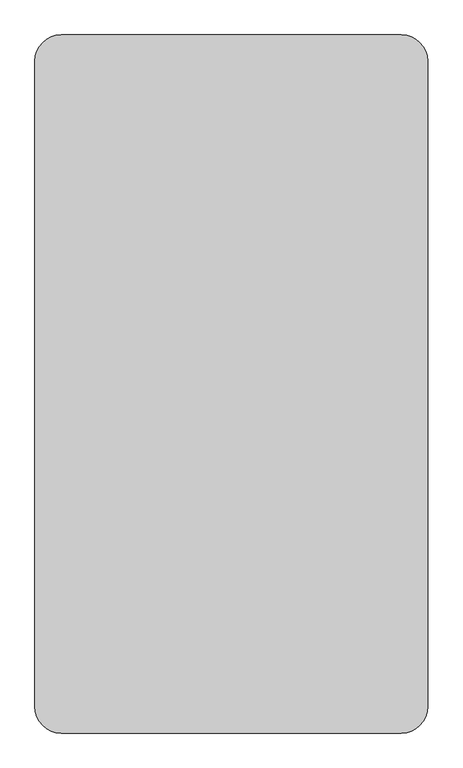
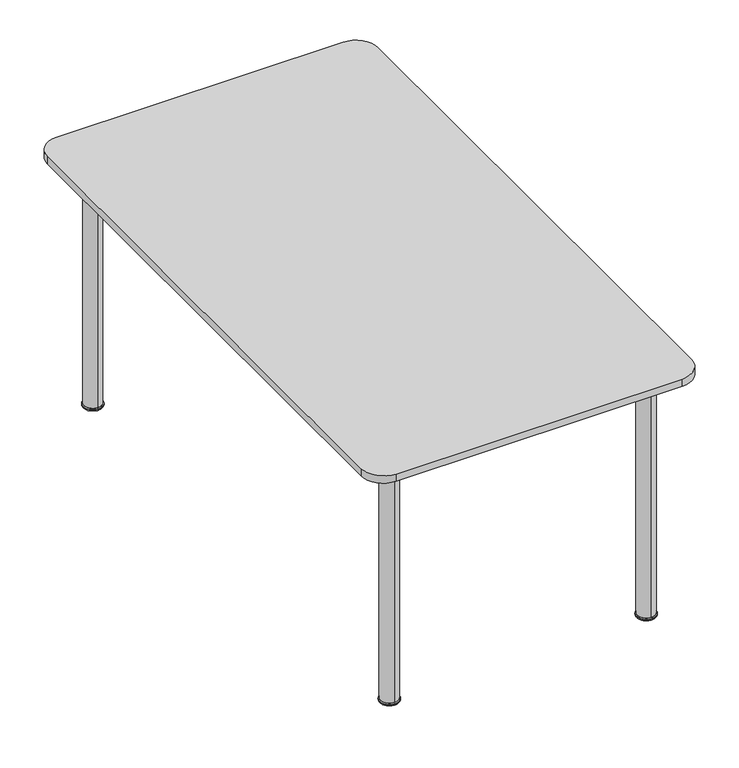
"""IFC4 building model written with IfcOpenShell, lengths in millimetres: furniture geometry, Fredericia - Plan Table - 6630 : Fredericia - Plan Table - 6630."""

import ifcopenshell
import ifcopenshell.guid

model = None  # the IFC model being written
_history = None  # IfcOwnerHistory: only IFC2X3 demands one
_inside = {}  # id of a spatial element -> (the spatial element, [elements in it])
_under = {}  # id of a project, library or spatial element -> (it, [spatial elements below it])
_declared = {}  # id of a project -> (the project, [libraries it declares])
_typed = {}  # id of a type object -> (the type object, [elements of that type])
_made_of = {}  # id of a material, layer set ... -> (it, [elements and type objects made of it])


def new_model(schema):
    """Start an empty IFC model of exactly this schema.

    Asked for "IFC4X3", IfcOpenShell would pick the latest addendum, in which some entities
    have other attributes; the version numbers below select the first issue.
    IFC2X3 requires an IfcOwnerHistory on every rooted entity: one is made here for all.
    """
    global model, _history
    if schema == "IFC4X3":
        model = ifcopenshell.file(schema_version=(4, 3, 0, 0))
    else:
        model = ifcopenshell.file(schema=schema)
    _inside.clear()
    _under.clear()
    _declared.clear()
    _typed.clear()
    _made_of.clear()
    _history = None
    if model.schema == "IFC2X3":
        org = make("IfcOrganization", Name="unknown")
        user = make(
            "IfcPersonAndOrganization",
            ThePerson=make("IfcPerson", FamilyName="unknown"),
            TheOrganization=org,
        )
        app = make(
            "IfcApplication",
            ApplicationDeveloper=org,
            Version="unknown",
            ApplicationFullName="unknown",
            ApplicationIdentifier="unknown",
        )
        _history = make(
            "IfcOwnerHistory",
            OwningUser=user,
            OwningApplication=app,
            ChangeAction="ADDED",
            CreationDate=0,
        )
    return model


def make(cls, **values):
    """One entity of the class cls with the attributes given. An attribute that is None is left unset."""
    return model.create_entity(
        cls, **{name: value for name, value in values.items() if value is not None}
    )


def rooted(cls, **values):
    """An entity with a GlobalId (a new one), such as an element, a storey or a relation."""
    return make(cls, GlobalId=ifcopenshell.guid.new(), OwnerHistory=_history, **values)


def si_unit(unit_type, name, prefix=None):
    """IfcSIUnit, for example si_unit("LENGTHUNIT", "METRE", prefix="MILLI")."""
    return make("IfcSIUnit", UnitType=unit_type, Prefix=prefix, Name=name)


def assignment(units):
    """IfcUnitAssignment: the units of a project."""
    return None if units is None else make("IfcUnitAssignment", Units=units)


def point(xyz):
    """IfcCartesianPoint."""
    return None if xyz is None else make("IfcCartesianPoint", Coordinates=xyz)


def direction(xyz):
    """IfcDirection."""
    return None if xyz is None else make("IfcDirection", DirectionRatios=xyz)


def frame(location, z_axis=None, x_axis=None):
    """IfcAxis2Placement3D, a coordinate frame: its origin and axes. An axis left out is left unset."""
    return make(
        "IfcAxis2Placement3D",
        Location=point(location),
        Axis=direction(z_axis),
        RefDirection=direction(x_axis),
    )


def frame_2d(location, x_axis=None):
    """IfcAxis2Placement2D, a coordinate frame in the plane: its origin and x axis."""
    return make(
        "IfcAxis2Placement2D", Location=point(location), RefDirection=direction(x_axis)
    )


def origin():
    """The frame at (0, 0, 0) with its axes left unset."""
    return frame((0.0, 0.0, 0.0))


def place(relative_to, where):
    """IfcLocalPlacement: puts the frame where relative to a parent placement (None: the world)."""
    return make(
        "IfcLocalPlacement", PlacementRelTo=relative_to, RelativePlacement=where
    )


def context(
    kind, dimensions, precision=None, world=None, true_north=None, identifier=None
):
    """IfcGeometricRepresentationContext, for example the 3D "Model" context."""
    return make(
        "IfcGeometricRepresentationContext",
        ContextIdentifier=identifier,
        ContextType=kind,
        CoordinateSpaceDimension=dimensions,
        Precision=precision,
        WorldCoordinateSystem=world,
        TrueNorth=true_north,
    )


def project(units=None, contexts=None):
    """IfcProject with its units and contexts."""
    return rooted(
        "IfcProject",
        Name="project",
        RepresentationContexts=contexts,
        UnitsInContext=assignment(units),
    )


def spatial(cls, under=None, at=None, **own):
    """A site, building, storey or space (cls), placed at a placement, below another one or the project."""
    s = rooted(cls, ObjectPlacement=at, **own)
    if under is not None:
        _under.setdefault(under.id(), (under, []))[1].append(s)
    return s


def polyline(points):
    """IfcPolyline through the points."""
    return make("IfcPolyline", Points=[point(p) for p in points])


def circle_curve(where, radius):
    """IfcCircle in the frame where."""
    return make("IfcCircle", Position=where, Radius=radius)


def ellipse_curve(where, semi_axis1, semi_axis2):
    """IfcEllipse in the frame where."""
    return make(
        "IfcEllipse", Position=where, SemiAxis1=semi_axis1, SemiAxis2=semi_axis2
    )


def trimmed(basis, trim1, trim2, sense, master):
    """IfcTrimmedCurve: the piece of a basis curve between two trims."""
    return make(
        "IfcTrimmedCurve",
        BasisCurve=basis,
        Trim1=trim1,
        Trim2=trim2,
        SenseAgreement=sense,
        MasterRepresentation=master,
    )


def segment(curve, same_sense, transition):
    """IfcCompositeCurveSegment."""
    return make(
        "IfcCompositeCurveSegment",
        Transition=transition,
        SameSense=same_sense,
        ParentCurve=curve,
    )


def composite_curve(segments, self_intersect=None):
    """IfcCompositeCurve: segments joined end to end."""
    return make("IfcCompositeCurve", Segments=segments, SelfIntersect=self_intersect)


def outline(outer, holes=None, kind="AREA"):
    """IfcArbitraryClosedProfileDef: a profile drawn as a closed curve; with holes, ...WithVoids."""
    if holes is None:
        return make("IfcArbitraryClosedProfileDef", ProfileType=kind, OuterCurve=outer)
    return make(
        "IfcArbitraryProfileDefWithVoids",
        ProfileType=kind,
        OuterCurve=outer,
        InnerCurves=holes,
    )


def extrude(swept, where, along, depth):
    """IfcExtrudedAreaSolid: the profile swept, set in the frame where, extruded along a direction by depth."""
    return make(
        "IfcExtrudedAreaSolid",
        SweptArea=swept,
        Position=where,
        ExtrudedDirection=direction(along),
        Depth=depth,
    )


def shape(context_of_items, identifier, shape_type, items):
    """IfcShapeRepresentation: the items that make up one representation, for example the "Body"."""
    return make(
        "IfcShapeRepresentation",
        ContextOfItems=context_of_items,
        RepresentationIdentifier=identifier,
        RepresentationType=shape_type,
        Items=items,
    )


def source(mapping_origin, context_of_items, identifier, shape_type, items):
    """IfcRepresentationMap: a shape defined once, which mapped items show again and again."""
    return make(
        "IfcRepresentationMap",
        MappingOrigin=mapping_origin,
        MappedRepresentation=shape(context_of_items, identifier, shape_type, items),
    )


def transform(
    local_origin,
    x_axis=None,
    y_axis=None,
    z_axis=None,
    scale=None,
    scale2=None,
    scale3=None,
    uniform=True,
):
    """IfcCartesianTransformationOperator3D, or its non-uniform kind. x_axis, y_axis, z_axis: its Axis1, 2, 3."""
    if uniform:
        return make(
            "IfcCartesianTransformationOperator3D",
            Axis1=direction(x_axis),
            Axis2=direction(y_axis),
            LocalOrigin=point(local_origin),
            Scale=scale,
            Axis3=direction(z_axis),
        )
    return make(
        "IfcCartesianTransformationOperator3DnonUniform",
        Axis1=direction(x_axis),
        Axis2=direction(y_axis),
        LocalOrigin=point(local_origin),
        Scale=scale,
        Axis3=direction(z_axis),
        Scale2=scale2,
        Scale3=scale3,
    )


def mapped(mapping_source, mapping_target):
    """IfcMappedItem: shows the shape of a source again, moved by a transform."""
    return make(
        "IfcMappedItem", MappingSource=mapping_source, MappingTarget=mapping_target
    )


def made_of(thing, what):
    """Note that an element or type object is made of a material, layer set ...; save() writes the relation."""
    if what is not None:
        _made_of.setdefault(what.id(), (what, []))[1].append(thing)
    return thing


def element(
    cls,
    number,
    at=None,
    inside=None,
    cuts=None,
    type_object=None,
    material=None,
    context=None,
    identifier="Body",
    shape_type=None,
    held_by="IfcProductDefinitionShape",
    body=None,
    shapes=None,
    **own,
):
    """One element of the class cls, such as IfcWall. Its Tag is "e" and its number.

    at: its placement. inside: the storey or other place that contains it. cuts: it is an
    opening in that element (IfcRelVoidsElement). A single representation is given by context,
    identifier, shape_type and body (its items); several are given by shapes. held_by: the class
    of the entity that holds the representations. save() writes the other relations.
    """
    e = rooted(cls, Tag="e%d" % number, ObjectPlacement=at, **own)
    if body is not None:
        shapes = [shape(context, identifier, shape_type, body)]
    if shapes is not None:
        e.Representation = make(held_by, Representations=shapes)
    if inside is not None:
        _inside.setdefault(inside.id(), (inside, []))[1].append(e)
    if cuts is not None:
        rooted(
            "IfcRelVoidsElement", RelatingBuildingElement=cuts, RelatedOpeningElement=e
        )
    if type_object is not None:
        _typed.setdefault(type_object.id(), (type_object, []))[1].append(e)
    return made_of(e, material)


def aggregate(whole, parts):
    """IfcRelAggregates: a whole, such as a stair, and the parts it consists of."""
    return rooted("IfcRelAggregates", RelatingObject=whole, RelatedObjects=parts)


def save(model, path):
    """Write the relations noted so far, then the file.

    IfcRelAggregates (storeys below a building ...), IfcRelContainedInSpatialStructure (elements
    in a storey), IfcRelDefinesByType, IfcRelAssociatesMaterial and IfcRelDeclares: one each for
    every whole, place, type object, material and project.
    """
    for whole, parts in _under.values():
        aggregate(whole, parts)
    for where, things in _inside.values():
        rooted(
            "IfcRelContainedInSpatialStructure",
            RelatedElements=things,
            RelatingStructure=where,
        )
    for kind, things in _typed.values():
        rooted("IfcRelDefinesByType", RelatedObjects=things, RelatingType=kind)
    for what, things in _made_of.values():
        rooted("IfcRelAssociatesMaterial", RelatedObjects=things, RelatingMaterial=what)
    for by, libraries in _declared.values():
        rooted("IfcRelDeclares", RelatingContext=by, RelatedDefinitions=libraries)
    model.write(path)


def plane_surface(at):
    """IfcPlane: the flat surface through the origin of the frame at, square to its z axis."""
    return make("IfcPlane", Position=at)


def cylinder_surface(at, radius):
    """IfcCylindricalSurface: all points at the distance radius from the z axis of the frame at."""
    return make("IfcCylindricalSurface", Position=at, Radius=radius)


def revolved_surface(curve, axis_point, axis_direction):
    """IfcSurfaceOfRevolution: the curve turned about the line through axis_point along axis_direction."""
    return make(
        "IfcSurfaceOfRevolution",
        SweptCurve=make("IfcArbitraryOpenProfileDef", ProfileType="CURVE", Curve=curve),
        AxisPosition=make("IfcAxis1Placement", Location=point(axis_point), Axis=direction(axis_direction)),
    )


def advanced_brep(points, edges, surfaces, faces):
    """IfcAdvancedBrep: a solid bounded by faces that lie on surfaces and meet in shared edges.

    An edge is (start, end): straight between two places in points (the first is 0);
    or (start, end, curve); or (start, end, curve, False) where it runs against its curve.
    A face is (place in surfaces, loops), or (place, loops, False) where it looks against
    its surface's normal. A loop lists edges by number (the first is 1), with a minus sign
    where the edge is run from its end to its start. The first loop is the outer one.
    """
    corners = [point(p) for p in points]
    vertices = [make("IfcVertexPoint", VertexGeometry=c) for c in corners]
    made = []
    for start, end, *more in edges:
        made.append(
            make(
                "IfcEdgeCurve",
                EdgeStart=vertices[start],
                EdgeEnd=vertices[end],
                EdgeGeometry=more[0] if more else make("IfcPolyline", Points=[corners[start], corners[end]]),
                SameSense=more[1] if len(more) > 1 else True,
            )
        )
    hull = []
    for where, loops, *sense in faces:
        bounds = []
        for j, loop in enumerate(loops):
            ring = [make("IfcOrientedEdge", EdgeElement=made[abs(k) - 1], Orientation=k > 0) for k in loop]
            bounds.append(
                make(
                    "IfcFaceOuterBound" if j == 0 else "IfcFaceBound",
                    Bound=make("IfcEdgeLoop", EdgeList=ring),
                    Orientation=True,
                )
            )
        hull.append(make("IfcAdvancedFace", Bounds=bounds, FaceSurface=surfaces[where], SameSense=sense[0] if sense else True))
    return make("IfcAdvancedBrep", Outer=make("IfcClosedShell", CfsFaces=hull))


def furniture_a3abc43c(model_context):
    return source(origin(), model_context, "Body", "SolidModel", [
        advanced_brep(
        [(-350.0, -723.9003371, 7.0064935), (-350.0, -676.0499492, 7.0064935), (-350.0, -699.9751431, 7.0064935), (-350.0, -699.9751431, 0.0), (-350.0, -676.5499492, 0.0), (-350.0, -723.4003371, 0.0), (-350.0, -673.5499492, 3.0), (-350.0, -726.4003371, 3.0), (-350.0, -673.5499492, 4.5064935), (-350.0, -726.4003371, 4.5064935)],
        [
            (0, 1, circle_curve(frame((-350.0, -699.9751431, 7.0064935), z_axis=(0.0, 0.0, 1.0), x_axis=(0.0, 1.0, 0.0)), 23.925194)),
            (1, 2),
            (2, 0),
            (1, 0, circle_curve(frame((-350.0, -699.9751431, 7.0064935), z_axis=(0.0, 0.0, 1.0), x_axis=(0.0, 1.0, 0.0)), 23.925194)),
            (3, 4),
            (4, 5, circle_curve(frame((-350.0, -699.9751431, 0.0), z_axis=(0.0, 0.0, -1.0), x_axis=(0.0, 1.0, 0.0)), 23.425194)),
            (5, 3),
            (5, 4, circle_curve(frame((-350.0, -699.9751431, 0.0), z_axis=(0.0, 0.0, -1.0), x_axis=(0.0, 1.0, 0.0)), 23.425194)),
            (4, 6, circle_curve(frame((-350.0, -676.5499492, 3.0), z_axis=(1.0, 0.0, 0.0), x_axis=(0.0, 1.0, 0.0)), 3.0)),
            (6, 7, circle_curve(frame((-350.0, -699.9751431, 3.0), z_axis=(0.0, 0.0, -1.0), x_axis=(0.0, 1.0, 0.0)), 26.425194)),
            (7, 5, circle_curve(frame((-350.0, -723.4003371, 3.0), z_axis=(1.0, 0.0, 0.0), x_axis=(0.0, -1.0, 0.0)), 3.0)),
            (7, 6, circle_curve(frame((-350.0, -699.9751431, 3.0), z_axis=(0.0, 0.0, -1.0), x_axis=(0.0, 1.0, 0.0)), 26.425194)),
            (6, 8),
            (8, 9, circle_curve(frame((-350.0, -699.9751431, 4.5064935), z_axis=(0.0, 0.0, -1.0), x_axis=(0.0, 1.0, 0.0)), 26.425194)),
            (9, 7),
            (9, 8, circle_curve(frame((-350.0, -699.9751431, 4.5064935), z_axis=(0.0, 0.0, -1.0), x_axis=(0.0, 1.0, 0.0)), 26.425194)),
            (8, 1, circle_curve(frame((-350.0, -676.0499492, 4.5064935), z_axis=(1.0, 0.0, 0.0), x_axis=(0.0, 1.0, 0.0)), 2.5)),
            (0, 9, circle_curve(frame((-350.0, -723.9003371, 4.5064935), z_axis=(1.0, 0.0, 0.0), x_axis=(0.0, -1.0, 0.0)), 2.5)),
        ],
        [
            plane_surface(frame((-350.0, -699.9751431, 7.0064935), z_axis=(0.0, 0.0, 1.0), x_axis=(0.0, 1.0, 0.0))),
            plane_surface(frame((-350.0, -699.9751431, 0.0), z_axis=(0.0, 0.0, -1.0), x_axis=(0.0, 1.0, 0.0))),
            revolved_surface(trimmed(ellipse_curve(frame((-350.0, -676.5499492, 3.0), z_axis=(-1.0, 0.0, 0.0), x_axis=(0.0, 1.0, 0.0)), 3.0, 3.0), [point((-350.0, -673.5499492, 3.0))], [point((-350.0, -676.5499492, 0.0))], True, "CARTESIAN"), (-350.0, -699.9751431, 7.0064935), (0.0, 0.0, -1.0)),
            cylinder_surface(frame((-350.0, -699.9751431, 7.0064935), z_axis=(0.0, 0.0, -1.0), x_axis=(0.0, 1.0, 0.0)), 26.425194),
            revolved_surface(trimmed(ellipse_curve(frame((-350.0, -676.0499492, 4.5064935), z_axis=(-1.0, 0.0, 0.0), x_axis=(0.0, 1.0, 0.0)), 2.5, 2.5), [point((-350.0, -676.0499492, 7.0064935))], [point((-350.0, -673.5499492, 4.5064935))], True, "CARTESIAN"), (-350.0, -699.9751431, 7.0064935), (0.0, 0.0, -1.0)),
        ],
        [
            (0, [[1, 2, 3]]),
            (0, [[4, -3, -2]]),
            (1, [[5, 6, 7]]),
            (1, [[-7, 8, -5]]),
            (2, [[-6, 9, 10, 11]]),
            (2, [[-8, -11, 12, -9]]),
            (3, [[-10, 13, 14, 15]]),
            (3, [[-12, -15, 16, -13]]),
            (4, [[-14, 17, -1, 18]]),
            (4, [[-16, -18, -4, -17]]),
        ],
    ),
        extrude(outline(composite_curve([segment(trimmed(circle_curve(frame_2d((-350.0034069, -699.9751431)), 24.0), [point((-350.0034069, -723.9751431))], [point((-350.0034069, -675.9751431))], False, "CARTESIAN"), True, "CONTINUOUS"), segment(trimmed(circle_curve(frame_2d((-350.0034069, -699.9751431)), 24.0), [point((-350.0034069, -675.9751431))], [point((-350.0034069, -723.9751431))], False, "CARTESIAN"), True, "CONTINUOUS")], self_intersect=False)), frame((0.0, 0.0, 7.0064935), z_axis=(0.0, 0.0, 1.0), x_axis=(1.0, 0.0, 0.0)), (0.0, 0.0, 1.0), 697.2),
        advanced_brep(
        [(349.9965931, -699.9751431, 7.0064935), (349.9965931, -676.0499492, 7.0064935), (349.9965931, -723.9003371, 7.0064935), (349.9965931, -723.4003371, 0.0), (349.9965931, -676.5499492, 0.0), (349.9965931, -699.9751431, 0.0), (349.9965931, -726.4003371, 3.0), (349.9965931, -673.5499492, 3.0), (349.9965931, -726.4003371, 4.5064935), (349.9965931, -673.5499492, 4.5064935)],
        [
            (0, 1),
            (1, 2, circle_curve(frame((349.9965931, -699.9751431, 7.0064935), z_axis=(0.0, 0.0, 1.0), x_axis=(0.0, 1.0, 0.0)), 23.925194)),
            (2, 0),
            (2, 1, circle_curve(frame((349.9965931, -699.9751431, 7.0064935), z_axis=(0.0, 0.0, 1.0), x_axis=(0.0, 1.0, 0.0)), 23.925194)),
            (3, 4, circle_curve(frame((349.9965931, -699.9751431, 0.0), z_axis=(0.0, 0.0, -1.0), x_axis=(0.0, 1.0, 0.0)), 23.425194)),
            (4, 5),
            (5, 3),
            (4, 3, circle_curve(frame((349.9965931, -699.9751431, 0.0), z_axis=(0.0, 0.0, -1.0), x_axis=(0.0, 1.0, 0.0)), 23.425194)),
            (6, 7, circle_curve(frame((349.9965931, -699.9751431, 3.0), z_axis=(0.0, 0.0, -1.0), x_axis=(0.0, 1.0, 0.0)), 26.425194)),
            (7, 4, circle_curve(frame((349.9965931, -676.5499492, 3.0), z_axis=(-1.0, 0.0, 0.0), x_axis=(0.0, 1.0, 0.0)), 3.0)),
            (3, 6, circle_curve(frame((349.9965931, -723.4003371, 3.0), z_axis=(-1.0, 0.0, 0.0), x_axis=(0.0, -1.0, 0.0)), 3.0)),
            (7, 6, circle_curve(frame((349.9965931, -699.9751431, 3.0), z_axis=(0.0, 0.0, -1.0), x_axis=(0.0, 1.0, 0.0)), 26.425194)),
            (8, 9, circle_curve(frame((349.9965931, -699.9751431, 4.5064935), z_axis=(0.0, 0.0, -1.0), x_axis=(0.0, 1.0, 0.0)), 26.425194)),
            (9, 7),
            (6, 8),
            (9, 8, circle_curve(frame((349.9965931, -699.9751431, 4.5064935), z_axis=(0.0, 0.0, -1.0), x_axis=(0.0, 1.0, 0.0)), 26.425194)),
            (1, 9, circle_curve(frame((349.9965931, -676.0499492, 4.5064935), z_axis=(-1.0, 0.0, 0.0), x_axis=(0.0, 1.0, 0.0)), 2.5)),
            (8, 2, circle_curve(frame((349.9965931, -723.9003371, 4.5064935), z_axis=(-1.0, 0.0, 0.0), x_axis=(0.0, -1.0, 0.0)), 2.5)),
        ],
        [
            plane_surface(frame((349.9965931, -699.9751431, 7.0064935), z_axis=(0.0, 0.0, 1.0), x_axis=(0.0, 1.0, 0.0))),
            plane_surface(frame((349.9965931, -699.9751431, 0.0), z_axis=(0.0, 0.0, -1.0), x_axis=(0.0, 1.0, 0.0))),
            revolved_surface(trimmed(ellipse_curve(frame((349.9965931, -676.5499492, 3.0), z_axis=(1.0, 0.0, 0.0), x_axis=(0.0, 1.0, 0.0)), 3.0, 3.0), [point((349.9965931, -676.5499492, 0.0))], [point((349.9965931, -673.5499492, 3.0))], True, "CARTESIAN"), (349.9965931, -699.9751431, 7.0064935), (0.0, 0.0, 1.0)),
            cylinder_surface(frame((349.9965931, -699.9751431, 7.0064935), z_axis=(0.0, 0.0, 1.0), x_axis=(0.0, 1.0, 0.0)), 26.425194),
            revolved_surface(trimmed(ellipse_curve(frame((349.9965931, -676.0499492, 4.5064935), z_axis=(1.0, 0.0, 0.0), x_axis=(0.0, 1.0, 0.0)), 2.5, 2.5), [point((349.9965931, -673.5499492, 4.5064935))], [point((349.9965931, -676.0499492, 7.0064935))], True, "CARTESIAN"), (349.9965931, -699.9751431, 7.0064935), (0.0, 0.0, 1.0)),
        ],
        [
            (0, [[1, 2, 3]]),
            (0, [[-3, 4, -1]]),
            (1, [[5, 6, 7]]),
            (1, [[8, -7, -6]]),
            (2, [[9, 10, -5, 11]]),
            (2, [[12, -11, -8, -10]]),
            (3, [[13, 14, -9, 15]]),
            (3, [[16, -15, -12, -14]]),
            (4, [[-2, 17, -13, 18]]),
            (4, [[-4, -18, -16, -17]]),
        ],
    ),
        extrude(outline(composite_curve([segment(trimmed(circle_curve(frame_2d((350.0, -699.9751431)), 24.0), [point((350.0, -723.9751431))], [point((350.0, -675.9751431))], False, "CARTESIAN"), True, "CONTINUOUS"), segment(trimmed(circle_curve(frame_2d((350.0, -699.9751431)), 24.0), [point((350.0, -675.9751431))], [point((350.0, -723.9751431))], False, "CARTESIAN"), True, "CONTINUOUS")], self_intersect=False)), frame((0.0, 0.0, 7.0064935), z_axis=(0.0, 0.0, 1.0), x_axis=(1.0, 0.0, 0.0)), (0.0, 0.0, 1.0), 697.2),
        extrude(outline(composite_curve([segment(polyline([(-687.5, 691.7064935), (-687.5, 664.4807411)]), True, "CONTINUOUS"), segment(trimmed(circle_curve(frame_2d((-700.0, 664.4807411)), 12.5), [point((-687.5, 664.4807411))], [point((-712.5, 664.4807411))], False, "CARTESIAN"), True, "CONTINUOUS"), segment(polyline([(-712.5, 664.4807411), (-712.5, 691.7064935)]), True, "CONTINUOUS"), segment(trimmed(circle_curve(frame_2d((-700.0, 691.7064935)), 12.5), [point((-712.5, 691.7064935))], [point((-687.5, 691.7064935))], False, "CARTESIAN"), True, "CONTINUOUS")], self_intersect=False)), frame((-332.126797, 0.0, 0.0), z_axis=(1.0, 0.0, 0.0), x_axis=(0.0, 1.0, 0.0)), (0.0, 0.0, 1.0), 666.3054627),
        advanced_brep(
        [(-350.0, 699.9751431, 7.0064935), (-350.0, 676.0499492, 7.0064935), (-350.0, 723.9003371, 7.0064935), (-350.0, 723.4003371, 0.0), (-350.0, 676.5499492, 0.0), (-350.0, 699.9751431, 0.0), (-350.0, 726.4003371, 3.0), (-350.0, 673.5499492, 3.0), (-350.0, 726.4003371, 4.5064935), (-350.0, 673.5499492, 4.5064935)],
        [
            (0, 1),
            (1, 2, circle_curve(frame((-350.0, 699.9751431, 7.0064935), z_axis=(0.0, 0.0, 1.0), x_axis=(0.0, -1.0, 0.0)), 23.925194)),
            (2, 0),
            (2, 1, circle_curve(frame((-350.0, 699.9751431, 7.0064935), z_axis=(0.0, 0.0, 1.0), x_axis=(0.0, -1.0, 0.0)), 23.925194)),
            (3, 4, circle_curve(frame((-350.0, 699.9751431, 0.0), z_axis=(0.0, 0.0, -1.0), x_axis=(0.0, -1.0, 0.0)), 23.425194)),
            (4, 5),
            (5, 3),
            (4, 3, circle_curve(frame((-350.0, 699.9751431, 0.0), z_axis=(0.0, 0.0, -1.0), x_axis=(0.0, -1.0, 0.0)), 23.425194)),
            (6, 7, circle_curve(frame((-350.0, 699.9751431, 3.0), z_axis=(0.0, 0.0, -1.0), x_axis=(0.0, -1.0, 0.0)), 26.425194)),
            (7, 4, circle_curve(frame((-350.0, 676.5499492, 3.0), z_axis=(1.0, 0.0, 0.0), x_axis=(0.0, -1.0, 0.0)), 3.0)),
            (3, 6, circle_curve(frame((-350.0, 723.4003371, 3.0), z_axis=(1.0, 0.0, 0.0), x_axis=(0.0, 1.0, 0.0)), 3.0)),
            (7, 6, circle_curve(frame((-350.0, 699.9751431, 3.0), z_axis=(0.0, 0.0, -1.0), x_axis=(0.0, -1.0, 0.0)), 26.425194)),
            (8, 9, circle_curve(frame((-350.0, 699.9751431, 4.5064935), z_axis=(0.0, 0.0, -1.0), x_axis=(0.0, -1.0, 0.0)), 26.425194)),
            (9, 7),
            (6, 8),
            (9, 8, circle_curve(frame((-350.0, 699.9751431, 4.5064935), z_axis=(0.0, 0.0, -1.0), x_axis=(0.0, -1.0, 0.0)), 26.425194)),
            (1, 9, circle_curve(frame((-350.0, 676.0499492, 4.5064935), z_axis=(1.0, 0.0, 0.0), x_axis=(0.0, -1.0, 0.0)), 2.5)),
            (8, 2, circle_curve(frame((-350.0, 723.9003371, 4.5064935), z_axis=(1.0, 0.0, 0.0), x_axis=(0.0, 1.0, 0.0)), 2.5)),
        ],
        [
            plane_surface(frame((-350.0, 699.9751431, 7.0064935), z_axis=(0.0, 0.0, 1.0), x_axis=(0.0, -1.0, 0.0))),
            plane_surface(frame((-350.0, 699.9751431, 0.0), z_axis=(0.0, 0.0, -1.0), x_axis=(0.0, -1.0, 0.0))),
            revolved_surface(trimmed(ellipse_curve(frame((-350.0, 676.5499492, 3.0), z_axis=(-1.0, 0.0, 0.0), x_axis=(0.0, -1.0, 0.0)), 3.0, 3.0), [point((-350.0, 676.5499492, 0.0))], [point((-350.0, 673.5499492, 3.0))], True, "CARTESIAN"), (-350.0, 699.9751431, 7.0064935), (0.0, 0.0, 1.0)),
            cylinder_surface(frame((-350.0, 699.9751431, 7.0064935), z_axis=(0.0, 0.0, 1.0), x_axis=(0.0, -1.0, 0.0)), 26.425194),
            revolved_surface(trimmed(ellipse_curve(frame((-350.0, 676.0499492, 4.5064935), z_axis=(-1.0, 0.0, 0.0), x_axis=(0.0, -1.0, 0.0)), 2.5, 2.5), [point((-350.0, 673.5499492, 4.5064935))], [point((-350.0, 676.0499492, 7.0064935))], True, "CARTESIAN"), (-350.0, 699.9751431, 7.0064935), (0.0, 0.0, 1.0)),
        ],
        [
            (0, [[1, 2, 3]]),
            (0, [[-3, 4, -1]]),
            (1, [[5, 6, 7]]),
            (1, [[8, -7, -6]]),
            (2, [[9, 10, -5, 11]]),
            (2, [[12, -11, -8, -10]]),
            (3, [[13, 14, -9, 15]]),
            (3, [[16, -15, -12, -14]]),
            (4, [[-2, 17, -13, 18]]),
            (4, [[-4, -18, -16, -17]]),
        ],
    ),
        extrude(outline(composite_curve([segment(trimmed(circle_curve(frame_2d((-350.0034069, 699.9751431)), 24.0), [point((-350.0034069, 723.9751431))], [point((-350.0034069, 675.9751431))], False, "CARTESIAN"), True, "CONTINUOUS"), segment(trimmed(circle_curve(frame_2d((-350.0034069, 699.9751431)), 24.0), [point((-350.0034069, 675.9751431))], [point((-350.0034069, 723.9751431))], False, "CARTESIAN"), True, "CONTINUOUS")], self_intersect=False)), frame((0.0, 0.0, 7.0064935), z_axis=(0.0, 0.0, 1.0), x_axis=(1.0, 0.0, 0.0)), (0.0, 0.0, 1.0), 697.2),
        advanced_brep(
        [(349.9965931, 723.9003371, 7.0064935), (349.9965931, 676.0499492, 7.0064935), (349.9965931, 699.9751431, 7.0064935), (349.9965931, 699.9751431, 0.0), (349.9965931, 676.5499492, 0.0), (349.9965931, 723.4003371, 0.0), (349.9965931, 673.5499492, 3.0), (349.9965931, 726.4003371, 3.0), (349.9965931, 673.5499492, 4.5064935), (349.9965931, 726.4003371, 4.5064935)],
        [
            (0, 1, circle_curve(frame((349.9965931, 699.9751431, 7.0064935), z_axis=(0.0, 0.0, 1.0), x_axis=(0.0, -1.0, 0.0)), 23.925194)),
            (1, 2),
            (2, 0),
            (1, 0, circle_curve(frame((349.9965931, 699.9751431, 7.0064935), z_axis=(0.0, 0.0, 1.0), x_axis=(0.0, -1.0, 0.0)), 23.925194)),
            (3, 4),
            (4, 5, circle_curve(frame((349.9965931, 699.9751431, 0.0), z_axis=(0.0, 0.0, -1.0), x_axis=(0.0, -1.0, 0.0)), 23.425194)),
            (5, 3),
            (5, 4, circle_curve(frame((349.9965931, 699.9751431, 0.0), z_axis=(0.0, 0.0, -1.0), x_axis=(0.0, -1.0, 0.0)), 23.425194)),
            (4, 6, circle_curve(frame((349.9965931, 676.5499492, 3.0), z_axis=(-1.0, 0.0, 0.0), x_axis=(0.0, -1.0, 0.0)), 3.0)),
            (6, 7, circle_curve(frame((349.9965931, 699.9751431, 3.0), z_axis=(0.0, 0.0, -1.0), x_axis=(0.0, -1.0, 0.0)), 26.425194)),
            (7, 5, circle_curve(frame((349.9965931, 723.4003371, 3.0), z_axis=(-1.0, 0.0, 0.0), x_axis=(0.0, 1.0, 0.0)), 3.0)),
            (7, 6, circle_curve(frame((349.9965931, 699.9751431, 3.0), z_axis=(0.0, 0.0, -1.0), x_axis=(0.0, -1.0, 0.0)), 26.425194)),
            (6, 8),
            (8, 9, circle_curve(frame((349.9965931, 699.9751431, 4.5064935), z_axis=(0.0, 0.0, -1.0), x_axis=(0.0, -1.0, 0.0)), 26.425194)),
            (9, 7),
            (9, 8, circle_curve(frame((349.9965931, 699.9751431, 4.5064935), z_axis=(0.0, 0.0, -1.0), x_axis=(0.0, -1.0, 0.0)), 26.425194)),
            (8, 1, circle_curve(frame((349.9965931, 676.0499492, 4.5064935), z_axis=(-1.0, 0.0, 0.0), x_axis=(0.0, -1.0, 0.0)), 2.5)),
            (0, 9, circle_curve(frame((349.9965931, 723.9003371, 4.5064935), z_axis=(-1.0, 0.0, 0.0), x_axis=(0.0, 1.0, 0.0)), 2.5)),
        ],
        [
            plane_surface(frame((349.9965931, 699.9751431, 7.0064935), z_axis=(0.0, 0.0, 1.0), x_axis=(0.0, -1.0, 0.0))),
            plane_surface(frame((349.9965931, 699.9751431, 0.0), z_axis=(0.0, 0.0, -1.0), x_axis=(0.0, -1.0, 0.0))),
            revolved_surface(trimmed(ellipse_curve(frame((349.9965931, 676.5499492, 3.0), z_axis=(1.0, 0.0, 0.0), x_axis=(0.0, -1.0, 0.0)), 3.0, 3.0), [point((349.9965931, 673.5499492, 3.0))], [point((349.9965931, 676.5499492, 0.0))], True, "CARTESIAN"), (349.9965931, 699.9751431, 7.0064935), (0.0, 0.0, -1.0)),
            cylinder_surface(frame((349.9965931, 699.9751431, 7.0064935), z_axis=(0.0, 0.0, -1.0), x_axis=(0.0, -1.0, 0.0)), 26.425194),
            revolved_surface(trimmed(ellipse_curve(frame((349.9965931, 676.0499492, 4.5064935), z_axis=(1.0, 0.0, 0.0), x_axis=(0.0, -1.0, 0.0)), 2.5, 2.5), [point((349.9965931, 676.0499492, 7.0064935))], [point((349.9965931, 673.5499492, 4.5064935))], True, "CARTESIAN"), (349.9965931, 699.9751431, 7.0064935), (0.0, 0.0, -1.0)),
        ],
        [
            (0, [[1, 2, 3]]),
            (0, [[4, -3, -2]]),
            (1, [[5, 6, 7]]),
            (1, [[-7, 8, -5]]),
            (2, [[-6, 9, 10, 11]]),
            (2, [[-8, -11, 12, -9]]),
            (3, [[-10, 13, 14, 15]]),
            (3, [[-12, -15, 16, -13]]),
            (4, [[-14, 17, -1, 18]]),
            (4, [[-16, -18, -4, -17]]),
        ],
    ),
        extrude(outline(composite_curve([segment(trimmed(circle_curve(frame_2d((350.0, 699.9751431)), 24.0), [point((350.0, 723.9751431))], [point((350.0, 675.9751431))], False, "CARTESIAN"), True, "CONTINUOUS"), segment(trimmed(circle_curve(frame_2d((350.0, 699.9751431)), 24.0), [point((350.0, 675.9751431))], [point((350.0, 723.9751431))], False, "CARTESIAN"), True, "CONTINUOUS")], self_intersect=False)), frame((0.0, 0.0, 7.0064935), z_axis=(0.0, 0.0, 1.0), x_axis=(1.0, 0.0, 0.0)), (0.0, 0.0, 1.0), 697.2),
        extrude(outline(composite_curve([segment(trimmed(circle_curve(frame_2d((700.0, 691.7064935)), 12.5), [point((687.5, 691.7064935))], [point((712.5, 691.7064935))], False, "CARTESIAN"), True, "CONTINUOUS"), segment(polyline([(712.5, 691.7064935), (712.5, 664.4807411)]), True, "CONTINUOUS"), segment(trimmed(circle_curve(frame_2d((700.0, 664.4807411)), 12.5), [point((712.5, 664.4807411))], [point((687.5, 664.4807411))], False, "CARTESIAN"), True, "CONTINUOUS"), segment(polyline([(687.5, 664.4807411), (687.5, 691.7064935)]), True, "CONTINUOUS")], self_intersect=False)), frame((-332.126797, 0.0, 0.0), z_axis=(1.0, 0.0, 0.0), x_axis=(0.0, 1.0, 0.0)), (0.0, 0.0, 1.0), 666.3054627),
        extrude(outline(composite_curve([segment(polyline([(691.7064935, 337.5), (664.4807411, 337.5)]), True, "CONTINUOUS"), segment(trimmed(circle_curve(frame_2d((664.4807411, 350.0)), 12.5), [point((664.4807411, 337.5))], [point((664.4807411, 362.5))], False, "CARTESIAN"), True, "CONTINUOUS"), segment(polyline([(664.4807411, 362.5), (691.7064935, 362.5)]), True, "CONTINUOUS"), segment(trimmed(circle_curve(frame_2d((691.7064935, 350.0)), 12.5), [point((691.7064935, 362.5))], [point((691.7064935, 337.5))], False, "CARTESIAN"), True, "CONTINUOUS")], self_intersect=False)), frame((0.0, -682.6855408, 0.0), z_axis=(0.0, 1.0, 0.0), x_axis=(0.0, 0.0, 1.0)), (0.0, 0.0, 1.0), 1364.1855408),
        extrude(outline(composite_curve([segment(trimmed(circle_curve(frame_2d((691.7064935, -350.0)), 12.5), [point((691.7064935, -337.5))], [point((691.7064935, -362.5))], False, "CARTESIAN"), True, "CONTINUOUS"), segment(polyline([(691.7064935, -362.5), (664.4807411, -362.5)]), True, "CONTINUOUS"), segment(trimmed(circle_curve(frame_2d((664.4807411, -350.0)), 12.5), [point((664.4807411, -362.5))], [point((664.4807411, -337.5))], False, "CARTESIAN"), True, "CONTINUOUS"), segment(polyline([(664.4807411, -337.5), (691.7064935, -337.5)]), True, "CONTINUOUS")], self_intersect=False)), frame((0.0, -682.6855408, 0.0), z_axis=(0.0, 1.0, 0.0), x_axis=(0.0, 0.0, 1.0)), (0.0, 0.0, 1.0), 1364.1855408),
        extrude(outline(composite_curve([segment(polyline([(390.0, -800.0), (-390.0, -800.0)]), True, "CONTINUOUS"), segment(trimmed(circle_curve(frame_2d((-390.0, -740.0)), 60.0), [point((-390.0, -800.0))], [point((-450.0, -740.0))], False, "CARTESIAN"), True, "CONTINUOUS"), segment(polyline([(-450.0, -740.0), (-450.0, 740.0)]), True, "CONTINUOUS"), segment(trimmed(circle_curve(frame_2d((-390.0, 740.0)), 60.0), [point((-450.0, 740.0))], [point((-390.0, 800.0))], False, "CARTESIAN"), True, "CONTINUOUS"), segment(polyline([(-390.0, 800.0), (390.0, 800.0)]), True, "CONTINUOUS"), segment(trimmed(circle_curve(frame_2d((390.0, 740.0)), 60.0), [point((390.0, 800.0))], [point((450.0, 740.0))], False, "CARTESIAN"), True, "CONTINUOUS"), segment(polyline([(450.0, 740.0), (450.0, -740.0)]), True, "CONTINUOUS"), segment(trimmed(circle_curve(frame_2d((390.0, -740.0)), 60.0), [point((450.0, -740.0))], [point((390.0, -800.0))], False, "CARTESIAN"), True, "CONTINUOUS")], self_intersect=False)), frame((0.0, 0.0, 704.2064935), z_axis=(0.0, 0.0, 1.0), x_axis=(1.0, 0.0, 0.0)), (0.0, 0.0, 1.0), 20.8),
    ])


if __name__ == "__main__":
    model = new_model("IFC4")
    model_context = context("Model", 3, world=origin())
    ifc_project = project(units=[si_unit("LENGTHUNIT", "METRE", prefix="MILLI")], contexts=[model_context])
    site = spatial("IfcSite", under=ifc_project)
    building = spatial("IfcBuilding", under=site)
    placement = place(None, origin())
    furniture_shape = furniture_a3abc43c(model_context)
    element("IfcFurniture", 1, ObjectType="Fredericia - Plan Table - 6630 : Fredericia - Plan Table - 6630", at=placement, inside=building, context=model_context, shape_type="MappedRepresentation", body=[
        mapped(furniture_shape, transform((0.0, 0.0, 0.0), x_axis=(1.0, 0.0, 0.0), y_axis=(0.0, 1.0, 0.0), z_axis=(0.0, 0.0, 1.0))),
    ])
    save(model, "model.ifc")
